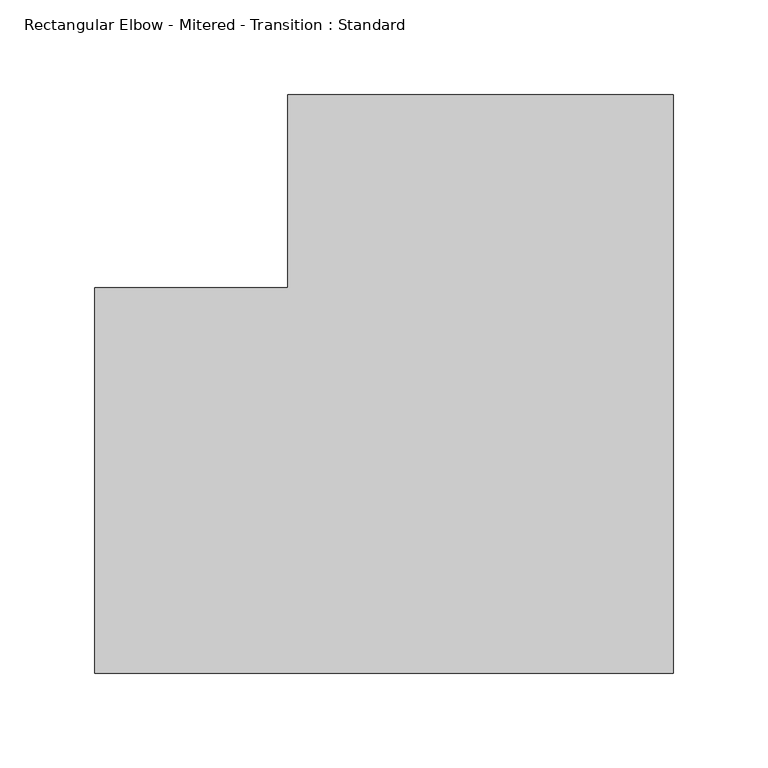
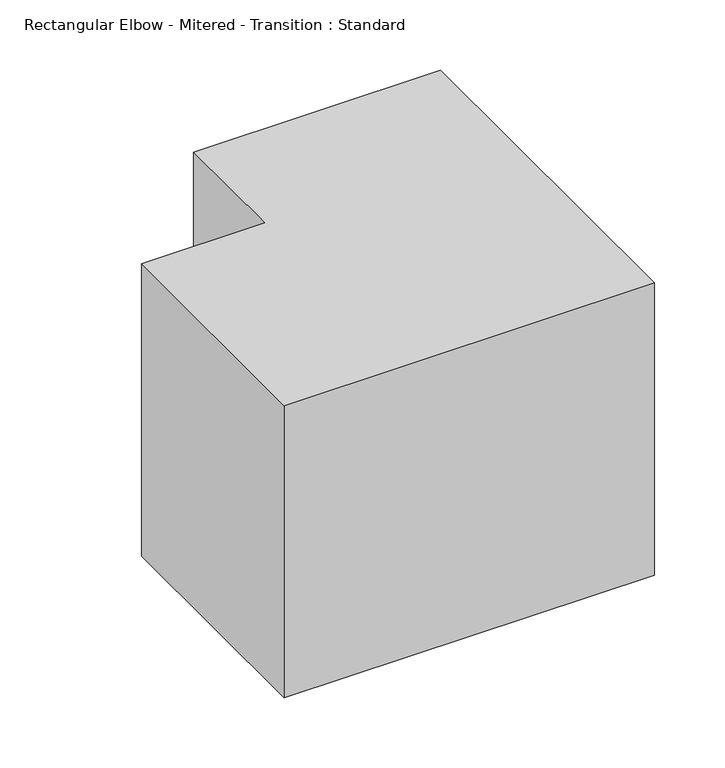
"""IFC4 building model written with IfcOpenShell, lengths in millimetres: duct fitting geometry, Rectangular Elbow - Mitered - Transition : Standard."""

from ifc_helpers import new_model, si_unit, frame, origin, place, context, project, spatial, polyline, outline, extrude, source, transform, mapped, element, save


def rectangular_elbow_mitered_transition_standard_eb9bf791(model_context):
    return source(origin(), model_context, "Body", "SweptSolid", [
        extrude(outline(polyline([(-101.6, 101.6), (-101.6, 203.2), (101.6, 203.2), (101.6, -101.6), (-203.2, -101.6), (-203.2, 101.6), (-101.6, 101.6)])), frame((0.0, 0.0, -127.0), z_axis=(0.0, 0.0, 1.0), x_axis=(1.0, 0.0, 0.0)), (0.0, 0.0, 1.0), 254.0),
    ])


if __name__ == "__main__":
    model = new_model("IFC4")
    model_context = context("Model", 3, world=origin())
    ifc_project = project(units=[si_unit("LENGTHUNIT", "METRE", prefix="MILLI")], contexts=[model_context])
    site = spatial("IfcSite", under=ifc_project)
    building = spatial("IfcBuilding", under=site)
    placement = place(None, origin())
    rectangular_elbow_mitered_transition_standard_shape = rectangular_elbow_mitered_transition_standard_eb9bf791(model_context)
    element("IfcDuctFitting", 1, ObjectType="Rectangular Elbow - Mitered - Transition : Standard", at=placement, inside=building, context=model_context, shape_type="MappedRepresentation", body=[
        mapped(rectangular_elbow_mitered_transition_standard_shape, transform((0.0, 0.0, 0.0), x_axis=(1.0, 0.0, 0.0), y_axis=(0.0, 1.0, 0.0), z_axis=(0.0, 0.0, 1.0))),
    ])
    save(model, "model.ifc")
